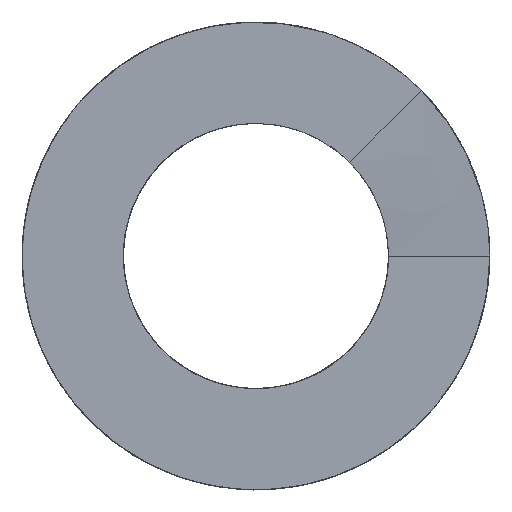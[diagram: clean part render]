
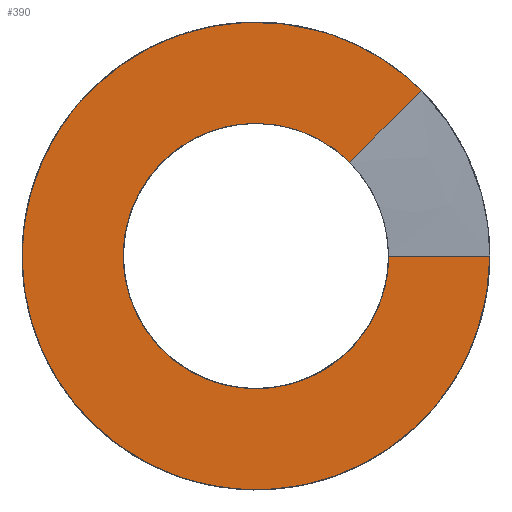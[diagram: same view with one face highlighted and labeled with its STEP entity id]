
A CAD part, front view. The second image highlights one B-rep face of the part: STEP entity #390.
In plain terms, the highlighted planar face has unit normal (0, -1, 0).
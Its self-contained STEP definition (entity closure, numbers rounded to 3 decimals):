
#36=LINE('',#2258,#44);
#44=VECTOR('',#461,10.);
#74=B_SPLINE_CURVE_WITH_KNOTS('',3,(#1714,#1715,#1716,#1717,#1718,#1719,
#1720,#1721,#1722,#1723,#1724,#1725,#1726,#1727,#1728,#1729,#1730,#1731,
#1732,#1733,#1734,#1735,#1736,#1737,#1738,#1739,#1740,#1741,#1742,#1743,
#1744,#1745,#1746,#1747,#1748,#1749,#1750,#1751,#1752,#1753,#1754,#1755),
 .UNSPECIFIED.,.F.,.F.,(4,2,2,2,2,2,2,2,2,2,2,2,2,2,2,2,2,2,2,2,4),(-2.455,
-2.355,-2.254,-2.081,-1.925,
-1.785,-1.663,-1.56,-1.453,
-1.435,-1.424,-1.407,-1.392,-1.218,
-1.044,-0.87,-0.696,-0.522,
-0.348,-0.174,0.),.UNSPECIFIED.);
#83=B_SPLINE_CURVE_WITH_KNOTS('',3,(#2158,#2159,#2160,#2161,#2162,#2163,
#2164,#2165,#2166,#2167,#2168,#2169,#2170,#2171,#2172,#2173,#2174,#2175,
#2176,#2177,#2178,#2179,#2180,#2181,#2182,#2183,#2184,#2185,#2186,#2187,
#2188,#2189,#2190,#2191,#2192,#2193,#2194,#2195,#2196,#2197),
 .UNSPECIFIED.,.F.,.F.,(4,2,2,2,2,2,2,2,2,2,2,2,2,2,2,2,2,2,2,4),(-4.33,
-4.032,-3.734,-3.427,-3.12,-2.813,
-2.506,-2.199,-1.893,-1.844,
-1.822,-1.803,-1.773,-1.612,
-1.354,-1.149,-0.924,-0.614,
-0.307,0.),.UNSPECIFIED.);
#89=B_SPLINE_CURVE_WITH_KNOTS('',3,(#2252,#2253,#2254,#2255,#2256,#2257),
 .UNSPECIFIED.,.F.,.F.,(4,2,4),(-0.34,-0.17,0.),.UNSPECIFIED.);
#114=FACE_OUTER_BOUND('',#140,.T.);
#140=EDGE_LOOP('',(#335,#336,#337,#338));
#171=VERTEX_POINT('',#1448);
#178=VERTEX_POINT('',#1709);
#181=VERTEX_POINT('',#1852);
#186=VERTEX_POINT('',#2157);
#224=EDGE_CURVE('',#178,#171,#74,.T.);
#235=EDGE_CURVE('',#181,#186,#83,.T.);
#242=EDGE_CURVE('',#186,#178,#89,.T.);
#243=EDGE_CURVE('',#171,#181,#36,.T.);
#335=ORIENTED_EDGE('',*,*,#242,.F.);
#336=ORIENTED_EDGE('',*,*,#235,.F.);
#337=ORIENTED_EDGE('',*,*,#243,.F.);
#338=ORIENTED_EDGE('',*,*,#224,.F.);
#372=PLANE('',#429);
#390=ADVANCED_FACE('',(#114),#372,.F.);
#429=AXIS2_PLACEMENT_3D('',#2251,#459,#460);
#459=DIRECTION('center_axis',(0.,1.,0.));
#460=DIRECTION('ref_axis',(0.,0.,1.));
#461=DIRECTION('',(1.,0.,0.));
#1448=CARTESIAN_POINT('',(4.455,0.,0.));
#1709=CARTESIAN_POINT('',(3.15,0.,3.15));
#1714=CARTESIAN_POINT('Ctrl Pts',(3.15,0.,
3.15));
#1715=CARTESIAN_POINT('Ctrl Pts',(2.913,0.,
3.388));
#1716=CARTESIAN_POINT('Ctrl Pts',(2.649,0.,
3.597));
#1717=CARTESIAN_POINT('Ctrl Pts',(2.08,0.,
3.954));
#1718=CARTESIAN_POINT('Ctrl Pts',(1.776,0.,
4.099));
#1719=CARTESIAN_POINT('Ctrl Pts',(0.913,0.,
4.399));
#1720=CARTESIAN_POINT('Ctrl Pts',(0.335,0.,
4.48));
#1721=CARTESIAN_POINT('Ctrl Pts',(-0.761,0.,
4.42));
#1722=CARTESIAN_POINT('Ctrl Pts',(-1.271,0.,
4.301));
#1723=CARTESIAN_POINT('Ctrl Pts',(-2.175,0.,
3.915));
#1724=CARTESIAN_POINT('Ctrl Pts',(-2.571,0.,
3.668));
#1725=CARTESIAN_POINT('Ctrl Pts',(-3.231,0.,
3.094));
#1726=CARTESIAN_POINT('Ctrl Pts',(-3.502,0.,
2.784));
#1727=CARTESIAN_POINT('Ctrl Pts',(-3.914,0.,
2.155));
#1728=CARTESIAN_POINT('Ctrl Pts',(-4.069,0.,
1.847));
#1729=CARTESIAN_POINT('Ctrl Pts',(-4.308,0.,
1.19));
#1730=CARTESIAN_POINT('Ctrl Pts',(-4.389,0.,
0.843));
#1731=CARTESIAN_POINT('Ctrl Pts',(-4.435,0.,
0.43));
#1732=CARTESIAN_POINT('Ctrl Pts',(-4.44,0.,
0.37));
#1733=CARTESIAN_POINT('Ctrl Pts',(-4.447,0.,
0.272));
#1734=CARTESIAN_POINT('Ctrl Pts',(-4.449,0.,
0.234));
#1735=CARTESIAN_POINT('Ctrl Pts',(-4.453,0.,
0.141));
#1736=CARTESIAN_POINT('Ctrl Pts',(-4.455,0.,
0.086));
#1737=CARTESIAN_POINT('Ctrl Pts',(-4.455,0.,
-0.018));
#1738=CARTESIAN_POINT('Ctrl Pts',(-4.455,0.,-0.068));
#1739=CARTESIAN_POINT('Ctrl Pts',(-4.438,0.,-0.697));
#1740=CARTESIAN_POINT('Ctrl Pts',(-4.31,0.,-1.268));
#1741=CARTESIAN_POINT('Ctrl Pts',(-3.841,0.,-2.33));
#1742=CARTESIAN_POINT('Ctrl Pts',(-3.506,0.,-2.81));
#1743=CARTESIAN_POINT('Ctrl Pts',(-2.669,0.,-3.614));
#1744=CARTESIAN_POINT('Ctrl Pts',(-2.177,0.,-3.93));
#1745=CARTESIAN_POINT('Ctrl Pts',(-1.098,0.,-4.356));
#1746=CARTESIAN_POINT('Ctrl Pts',(-0.522,0.,-4.462));
#1747=CARTESIAN_POINT('Ctrl Pts',(0.639,0.,-4.447));
#1748=CARTESIAN_POINT('Ctrl Pts',(1.212,0.,-4.326));
#1749=CARTESIAN_POINT('Ctrl Pts',(2.279,0.,-3.872));
#1750=CARTESIAN_POINT('Ctrl Pts',(2.763,0.,-3.542));
#1751=CARTESIAN_POINT('Ctrl Pts',(3.578,0.,-2.717));
#1752=CARTESIAN_POINT('Ctrl Pts',(3.901,0.,-2.228));
#1753=CARTESIAN_POINT('Ctrl Pts',(4.342,0.,-1.155));
#1754=CARTESIAN_POINT('Ctrl Pts',(4.455,0.,-0.58));
#1755=CARTESIAN_POINT('Ctrl Pts',(4.455,0.,0.));
#1852=CARTESIAN_POINT('',(7.855,0.,0.));
#2157=CARTESIAN_POINT('',(5.554,0.,5.554));
#2158=CARTESIAN_POINT('Ctrl Pts',(7.855,0.,0.));
#2159=CARTESIAN_POINT('Ctrl Pts',(7.855,0.,-0.994));
#2160=CARTESIAN_POINT('Ctrl Pts',(7.666,0.,-1.98));
#2161=CARTESIAN_POINT('Ctrl Pts',(6.931,0.,-3.828));
#2162=CARTESIAN_POINT('Ctrl Pts',(6.391,0.,-4.673));
#2163=CARTESIAN_POINT('Ctrl Pts',(5.006,0.,-6.139));
#2164=CARTESIAN_POINT('Ctrl Pts',(4.164,0.,-6.738));
#2165=CARTESIAN_POINT('Ctrl Pts',(2.3,0.,-7.58));
#2166=CARTESIAN_POINT('Ctrl Pts',(1.294,0.,-7.815));
#2167=CARTESIAN_POINT('Ctrl Pts',(-0.75,0.,-7.886));
#2168=CARTESIAN_POINT('Ctrl Pts',(-1.769,0.,-7.721));
#2169=CARTESIAN_POINT('Ctrl Pts',(-3.688,0.,-7.011));
#2170=CARTESIAN_POINT('Ctrl Pts',(-4.568,0.,-6.471));
#2171=CARTESIAN_POINT('Ctrl Pts',(-6.073,0.,-5.086));
#2172=CARTESIAN_POINT('Ctrl Pts',(-6.683,0.,-4.252));
#2173=CARTESIAN_POINT('Ctrl Pts',(-7.549,0.,-2.399));
#2174=CARTESIAN_POINT('Ctrl Pts',(-7.797,0.,-1.397));
#2175=CARTESIAN_POINT('Ctrl Pts',(-7.854,0.,-0.212));
#2176=CARTESIAN_POINT('Ctrl Pts',(-7.857,0.,
-0.048));
#2177=CARTESIAN_POINT('Ctrl Pts',(-7.853,0.,
0.186));
#2178=CARTESIAN_POINT('Ctrl Pts',(-7.851,0.,
0.256));
#2179=CARTESIAN_POINT('Ctrl Pts',(-7.845,0.,
0.392));
#2180=CARTESIAN_POINT('Ctrl Pts',(-7.842,0.,
0.459));
#2181=CARTESIAN_POINT('Ctrl Pts',(-7.831,0.,
0.622));
#2182=CARTESIAN_POINT('Ctrl Pts',(-7.823,0.,
0.72));
#2183=CARTESIAN_POINT('Ctrl Pts',(-7.756,0.,
1.353));
#2184=CARTESIAN_POINT('Ctrl Pts',(-7.645,0.,
1.881));
#2185=CARTESIAN_POINT('Ctrl Pts',(-7.22,0.,
3.21));
#2186=CARTESIAN_POINT('Ctrl Pts',(-6.827,0.,
3.979));
#2187=CARTESIAN_POINT('Ctrl Pts',(-5.91,0.,
5.219));
#2188=CARTESIAN_POINT('Ctrl Pts',(-5.433,0.,
5.714));
#2189=CARTESIAN_POINT('Ctrl Pts',(-4.311,0.,
6.609));
#2190=CARTESIAN_POINT('Ctrl Pts',(-3.661,0.,
6.99));
#2191=CARTESIAN_POINT('Ctrl Pts',(-2.009,0.,
7.664));
#2192=CARTESIAN_POINT('Ctrl Pts',(-0.983,0.,
7.862));
#2193=CARTESIAN_POINT('Ctrl Pts',(1.074,0.,
7.848));
#2194=CARTESIAN_POINT('Ctrl Pts',(2.086,0.,
7.642));
#2195=CARTESIAN_POINT('Ctrl Pts',(3.973,0.,
6.853));
#2196=CARTESIAN_POINT('Ctrl Pts',(4.831,0.,
6.278));
#2197=CARTESIAN_POINT('Ctrl Pts',(5.554,0.,
5.554));
#2251=CARTESIAN_POINT('Origin',(0.,0.,0.));
#2252=CARTESIAN_POINT('Ctrl Pts',(5.554,0.,
5.554));
#2253=CARTESIAN_POINT('Ctrl Pts',(5.154,0.,
5.154));
#2254=CARTESIAN_POINT('Ctrl Pts',(4.753,0.,
4.753));
#2255=CARTESIAN_POINT('Ctrl Pts',(3.952,0.,
3.952));
#2256=CARTESIAN_POINT('Ctrl Pts',(3.551,0.,3.551));
#2257=CARTESIAN_POINT('Ctrl Pts',(3.15,0.,3.15));
#2258=CARTESIAN_POINT('',(3.078,0.,0.));
